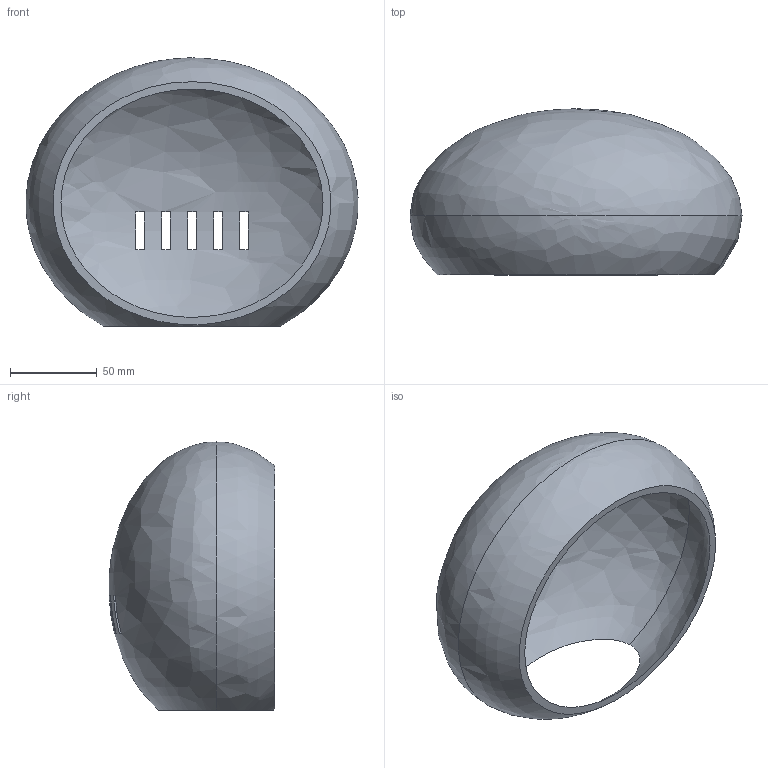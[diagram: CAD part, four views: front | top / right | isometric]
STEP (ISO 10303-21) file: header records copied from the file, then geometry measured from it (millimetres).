
FILE_DESCRIPTION(('Base splice and hand/dowel native rebuild. P1 head/arm retained as imported base geometry.'),'2;1');
FILE_NAME('PEBBLE_HEAD_REAR_TRIAL.step','',(''),(''),'SolidCraft','SolidCraft','');
FILE_SCHEMA(('AP242_MANAGED_MODEL_BASED_3D_ENGINEERING_MIM_LF { 1 0 10303 442 1 1 4 }'));
Length unit declared in the file: millimetre
Products named in the file (1): PEBBLE_HEAD_REAR_TRIAL
Bounding box: 191.87 x 95.87 x 155 mm (x, y, z)
Volume: 167878.4 mm3; surface area: 111262.5 mm2
Topology: 1 solids, 1 shells, 26 faces, 78 edges, 52 vertices
Faces by surface type: plane 22, bspline 4
Entity records: 1751 total; most frequent: CARTESIAN_POINT 1214, ORIENTED_EDGE 148, EDGE_CURVE 74, VERTEX_POINT 52, B_SPLINE_CURVE_WITH_KNOTS 50, EDGE_LOOP 40, FACE_BOUND 40, ADVANCED_FACE 26
